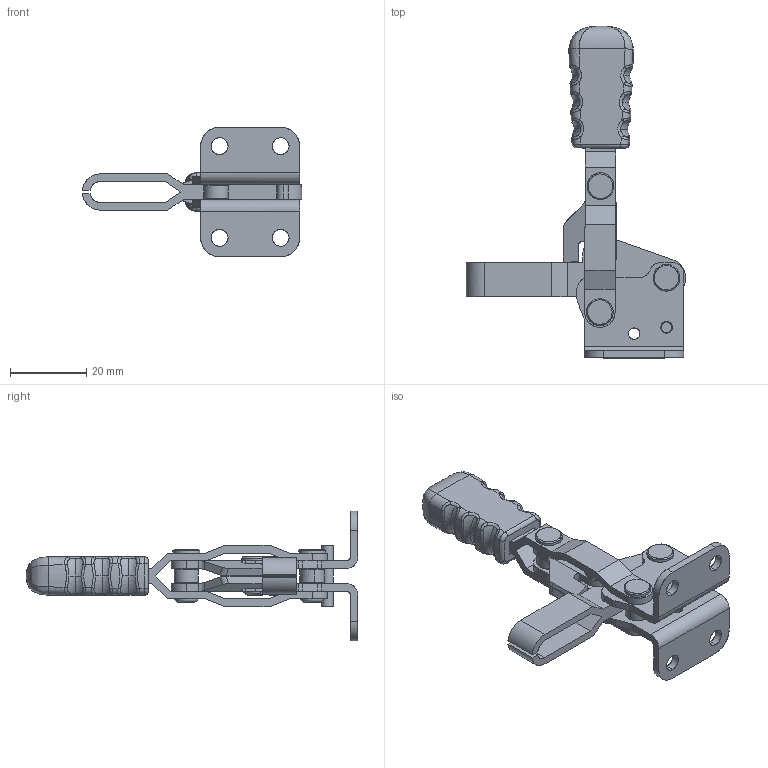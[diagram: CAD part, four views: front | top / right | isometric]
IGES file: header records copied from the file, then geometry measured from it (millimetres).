
Start section: Comment
Global section: file name: 10752b.igs; native system:  By Spatial Corp.; preprocessor: XPlus PS/IGES 3.0; author: Author; organization: Title; date: 20050216.164558; units: inch
Bounding box: 57.47 x 87 x 34 mm (x, y, z)
Surface area: 14310.5 mm2 (no closed solid volume)
Topology: 0 solids, 0 shells, 385 faces, 1896 edges, 1888 vertices
Faces by surface type: revolution 194, extrusion 121, bspline 70
